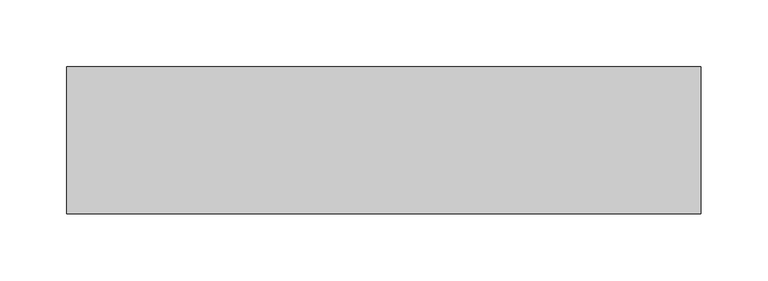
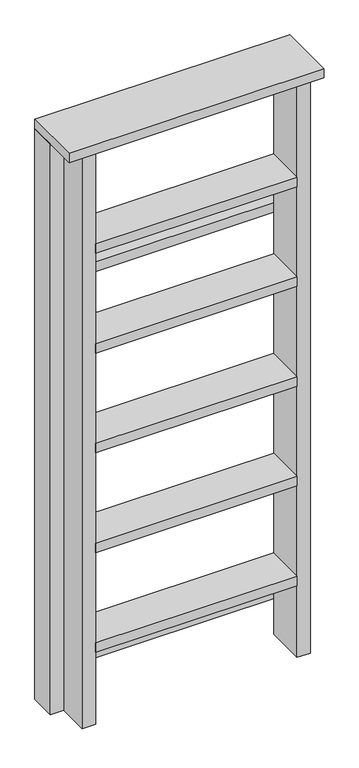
"""IFC4 building model written with IfcOpenShell, lengths in millimetres: proxy geometry, BIMHealth-Maintenance_Steps-LOD2A-v1 : BIMHealth-Maintenance_Steps-LOD2A-v1."""

import ifcopenshell
import ifcopenshell.guid

model = None  # the IFC model being written
_history = None  # IfcOwnerHistory: only IFC2X3 demands one
_inside = {}  # id of a spatial element -> (the spatial element, [elements in it])
_under = {}  # id of a project, library or spatial element -> (it, [spatial elements below it])
_declared = {}  # id of a project -> (the project, [libraries it declares])
_typed = {}  # id of a type object -> (the type object, [elements of that type])
_made_of = {}  # id of a material, layer set ... -> (it, [elements and type objects made of it])


def new_model(schema):
    """Start an empty IFC model of exactly this schema.

    Asked for "IFC4X3", IfcOpenShell would pick the latest addendum, in which some entities
    have other attributes; the version numbers below select the first issue.
    IFC2X3 requires an IfcOwnerHistory on every rooted entity: one is made here for all.
    """
    global model, _history
    if schema == "IFC4X3":
        model = ifcopenshell.file(schema_version=(4, 3, 0, 0))
    else:
        model = ifcopenshell.file(schema=schema)
    _inside.clear()
    _under.clear()
    _declared.clear()
    _typed.clear()
    _made_of.clear()
    _history = None
    if model.schema == "IFC2X3":
        org = make("IfcOrganization", Name="unknown")
        user = make(
            "IfcPersonAndOrganization",
            ThePerson=make("IfcPerson", FamilyName="unknown"),
            TheOrganization=org,
        )
        app = make(
            "IfcApplication",
            ApplicationDeveloper=org,
            Version="unknown",
            ApplicationFullName="unknown",
            ApplicationIdentifier="unknown",
        )
        _history = make(
            "IfcOwnerHistory",
            OwningUser=user,
            OwningApplication=app,
            ChangeAction="ADDED",
            CreationDate=0,
        )
    return model


def make(cls, **values):
    """One entity of the class cls with the attributes given. An attribute that is None is left unset."""
    return model.create_entity(
        cls, **{name: value for name, value in values.items() if value is not None}
    )


def rooted(cls, **values):
    """An entity with a GlobalId (a new one), such as an element, a storey or a relation."""
    return make(cls, GlobalId=ifcopenshell.guid.new(), OwnerHistory=_history, **values)


def si_unit(unit_type, name, prefix=None):
    """IfcSIUnit, for example si_unit("LENGTHUNIT", "METRE", prefix="MILLI")."""
    return make("IfcSIUnit", UnitType=unit_type, Prefix=prefix, Name=name)


def assignment(units):
    """IfcUnitAssignment: the units of a project."""
    return None if units is None else make("IfcUnitAssignment", Units=units)


def point(xyz):
    """IfcCartesianPoint."""
    return None if xyz is None else make("IfcCartesianPoint", Coordinates=xyz)


def direction(xyz):
    """IfcDirection."""
    return None if xyz is None else make("IfcDirection", DirectionRatios=xyz)


def frame(location, z_axis=None, x_axis=None):
    """IfcAxis2Placement3D, a coordinate frame: its origin and axes. An axis left out is left unset."""
    return make(
        "IfcAxis2Placement3D",
        Location=point(location),
        Axis=direction(z_axis),
        RefDirection=direction(x_axis),
    )


def origin():
    """The frame at (0, 0, 0) with its axes left unset."""
    return frame((0.0, 0.0, 0.0))


def origin_with_axes():
    """The frame at (0, 0, 0) with the z axis (0, 0, 1) and the x axis (1, 0, 0) written out."""
    return frame((0.0, 0.0, 0.0), z_axis=(0.0, 0.0, 1.0), x_axis=(1.0, 0.0, 0.0))


def place(relative_to, where):
    """IfcLocalPlacement: puts the frame where relative to a parent placement (None: the world)."""
    return make(
        "IfcLocalPlacement", PlacementRelTo=relative_to, RelativePlacement=where
    )


def context(
    kind, dimensions, precision=None, world=None, true_north=None, identifier=None
):
    """IfcGeometricRepresentationContext, for example the 3D "Model" context."""
    return make(
        "IfcGeometricRepresentationContext",
        ContextIdentifier=identifier,
        ContextType=kind,
        CoordinateSpaceDimension=dimensions,
        Precision=precision,
        WorldCoordinateSystem=world,
        TrueNorth=true_north,
    )


def project(units=None, contexts=None):
    """IfcProject with its units and contexts."""
    return rooted(
        "IfcProject",
        Name="project",
        RepresentationContexts=contexts,
        UnitsInContext=assignment(units),
    )


def spatial(cls, under=None, at=None, **own):
    """A site, building, storey or space (cls), placed at a placement, below another one or the project."""
    s = rooted(cls, ObjectPlacement=at, **own)
    if under is not None:
        _under.setdefault(under.id(), (under, []))[1].append(s)
    return s


def polyline(points):
    """IfcPolyline through the points."""
    return make("IfcPolyline", Points=[point(p) for p in points])


def outline(outer, holes=None, kind="AREA"):
    """IfcArbitraryClosedProfileDef: a profile drawn as a closed curve; with holes, ...WithVoids."""
    if holes is None:
        return make("IfcArbitraryClosedProfileDef", ProfileType=kind, OuterCurve=outer)
    return make(
        "IfcArbitraryProfileDefWithVoids",
        ProfileType=kind,
        OuterCurve=outer,
        InnerCurves=holes,
    )


def extrude(swept, where, along, depth):
    """IfcExtrudedAreaSolid: the profile swept, set in the frame where, extruded along a direction by depth."""
    return make(
        "IfcExtrudedAreaSolid",
        SweptArea=swept,
        Position=where,
        ExtrudedDirection=direction(along),
        Depth=depth,
    )


def shape(context_of_items, identifier, shape_type, items):
    """IfcShapeRepresentation: the items that make up one representation, for example the "Body"."""
    return make(
        "IfcShapeRepresentation",
        ContextOfItems=context_of_items,
        RepresentationIdentifier=identifier,
        RepresentationType=shape_type,
        Items=items,
    )


def source(mapping_origin, context_of_items, identifier, shape_type, items):
    """IfcRepresentationMap: a shape defined once, which mapped items show again and again."""
    return make(
        "IfcRepresentationMap",
        MappingOrigin=mapping_origin,
        MappedRepresentation=shape(context_of_items, identifier, shape_type, items),
    )


def transform(
    local_origin,
    x_axis=None,
    y_axis=None,
    z_axis=None,
    scale=None,
    scale2=None,
    scale3=None,
    uniform=True,
):
    """IfcCartesianTransformationOperator3D, or its non-uniform kind. x_axis, y_axis, z_axis: its Axis1, 2, 3."""
    if uniform:
        return make(
            "IfcCartesianTransformationOperator3D",
            Axis1=direction(x_axis),
            Axis2=direction(y_axis),
            LocalOrigin=point(local_origin),
            Scale=scale,
            Axis3=direction(z_axis),
        )
    return make(
        "IfcCartesianTransformationOperator3DnonUniform",
        Axis1=direction(x_axis),
        Axis2=direction(y_axis),
        LocalOrigin=point(local_origin),
        Scale=scale,
        Axis3=direction(z_axis),
        Scale2=scale2,
        Scale3=scale3,
    )


def mapped(mapping_source, mapping_target):
    """IfcMappedItem: shows the shape of a source again, moved by a transform."""
    return make(
        "IfcMappedItem", MappingSource=mapping_source, MappingTarget=mapping_target
    )


def made_of(thing, what):
    """Note that an element or type object is made of a material, layer set ...; save() writes the relation."""
    if what is not None:
        _made_of.setdefault(what.id(), (what, []))[1].append(thing)
    return thing


def element(
    cls,
    number,
    at=None,
    inside=None,
    cuts=None,
    type_object=None,
    material=None,
    context=None,
    identifier="Body",
    shape_type=None,
    held_by="IfcProductDefinitionShape",
    body=None,
    shapes=None,
    **own,
):
    """One element of the class cls, such as IfcWall. Its Tag is "e" and its number.

    at: its placement. inside: the storey or other place that contains it. cuts: it is an
    opening in that element (IfcRelVoidsElement). A single representation is given by context,
    identifier, shape_type and body (its items); several are given by shapes. held_by: the class
    of the entity that holds the representations. save() writes the other relations.
    """
    e = rooted(cls, Tag="e%d" % number, ObjectPlacement=at, **own)
    if body is not None:
        shapes = [shape(context, identifier, shape_type, body)]
    if shapes is not None:
        e.Representation = make(held_by, Representations=shapes)
    if inside is not None:
        _inside.setdefault(inside.id(), (inside, []))[1].append(e)
    if cuts is not None:
        rooted(
            "IfcRelVoidsElement", RelatingBuildingElement=cuts, RelatedOpeningElement=e
        )
    if type_object is not None:
        _typed.setdefault(type_object.id(), (type_object, []))[1].append(e)
    return made_of(e, material)


def aggregate(whole, parts):
    """IfcRelAggregates: a whole, such as a stair, and the parts it consists of."""
    return rooted("IfcRelAggregates", RelatingObject=whole, RelatedObjects=parts)


def save(model, path):
    """Write the relations noted so far, then the file.

    IfcRelAggregates (storeys below a building ...), IfcRelContainedInSpatialStructure (elements
    in a storey), IfcRelDefinesByType, IfcRelAssociatesMaterial and IfcRelDeclares: one each for
    every whole, place, type object, material and project.
    """
    for whole, parts in _under.values():
        aggregate(whole, parts)
    for where, things in _inside.values():
        rooted(
            "IfcRelContainedInSpatialStructure",
            RelatedElements=things,
            RelatingStructure=where,
        )
    for kind, things in _typed.values():
        rooted("IfcRelDefinesByType", RelatedObjects=things, RelatingType=kind)
    for what, things in _made_of.values():
        rooted("IfcRelAssociatesMaterial", RelatedObjects=things, RelatingMaterial=what)
    for by, libraries in _declared.values():
        rooted("IfcRelDeclares", RelatingContext=by, RelatedDefinitions=libraries)
    model.write(path)


def generic_models_a36bd18e(model_context):
    return source(origin(), model_context, "Body", "SweptSolid", [
        extrude(outline(polyline([(-24.7221109, -15.0), (-24.7221109, 35.0), (0.0, 35.0), (0.0, -15.0), (-24.7221109, -15.0)])), origin_with_axes(), (0.0, 0.0, 1.0), 1122.0),
        extrude(outline(polyline([(425.0, 35.0), (425.0, 5.0), (0.0, 5.0), (0.0, 35.0), (425.0, 35.0)])), frame((0.0, 0.0, 66.1436403), z_axis=(0.0, 0.0, 1.0), x_axis=(1.0, 0.0, 0.0)), (0.0, 0.0, 1.0), 18.8563597),
        extrude(outline(polyline([(425.0, 35.0), (425.0, 5.0), (0.0, 5.0), (0.0, 35.0), (425.0, 35.0)])), frame((0.0, 0.0, 825.9436403), z_axis=(0.0, 0.0, 1.0), x_axis=(1.0, 0.0, 0.0)), (0.0, 0.0, 1.0), 18.8563597),
        extrude(outline(polyline([(0.0, 925.9436403), (-5.0, 925.9436403), (-5.0, 939.8), (-70.0, 939.8), (-70.0, 925.9436403), (-75.0, 925.9436403), (-75.0, 944.8), (0.0, 944.8), (0.0, 925.9436403)])), frame((25.0, 0.0, 0.0), z_axis=(1.0, 0.0, 0.0), x_axis=(0.0, 1.0, 0.0)), (0.0, 0.0, 1.0), 375.0),
        extrude(outline(polyline([(0.0, 729.7436403), (-5.0, 729.7436403), (-5.0, 743.6), (-70.0, 743.6), (-70.0, 729.7436403), (-75.0, 729.7436403), (-75.0, 748.6), (0.0, 748.6), (0.0, 729.7436403)])), frame((25.0, 0.0, 0.0), z_axis=(1.0, 0.0, 0.0), x_axis=(0.0, 1.0, 0.0)), (0.0, 0.0, 1.0), 375.0),
        extrude(outline(polyline([(0.0, 533.5436403), (-5.0, 533.5436403), (-5.0, 547.4), (-70.0, 547.4), (-70.0, 533.5436403), (-75.0, 533.5436403), (-75.0, 552.4), (0.0, 552.4), (0.0, 533.5436403)])), frame((25.0, 0.0, 0.0), z_axis=(1.0, 0.0, 0.0), x_axis=(0.0, 1.0, 0.0)), (0.0, 0.0, 1.0), 375.0),
        extrude(outline(polyline([(0.0, 337.3436403), (-5.0, 337.3436403), (-5.0, 351.2), (-70.0, 351.2), (-70.0, 337.3436403), (-75.0, 337.3436403), (-75.0, 356.2), (0.0, 356.2), (0.0, 337.3436403)])), frame((25.0, 0.0, 0.0), z_axis=(1.0, 0.0, 0.0), x_axis=(0.0, 1.0, 0.0)), (0.0, 0.0, 1.0), 375.0),
        extrude(outline(polyline([(0.0, 141.1436403), (-5.0, 141.1436403), (-5.0, 155.0), (-70.0, 155.0), (-70.0, 141.1436403), (-75.0, 141.1436403), (-75.0, 160.0), (0.0, 160.0), (0.0, 141.1436403)])), frame((25.0, 0.0, 0.0), z_axis=(1.0, 0.0, 0.0), x_axis=(0.0, 1.0, 0.0)), (0.0, 0.0, 1.0), 375.0),
        extrude(outline(polyline([(450.2778891, 35.0), (450.2778891, -75.0), (-24.7221109, -75.0), (-24.7221109, 35.0), (450.2778891, 35.0)])), frame((0.0, 0.0, 1122.0), z_axis=(0.0, 0.0, 1.0), x_axis=(1.0, 0.0, 0.0)), (0.0, 0.0, 1.0), 18.0),
        extrude(outline(polyline([(425.0, -15.0), (425.0, 35.0), (450.2778891, 35.0), (450.2778891, -15.0), (425.0, -15.0)])), origin_with_axes(), (0.0, 0.0, 1.0), 1122.0),
        extrude(outline(polyline([(400.0, -75.0), (400.0, 0.0), (425.0, 0.0), (425.0, -75.0), (400.0, -75.0)])), origin_with_axes(), (0.0, 0.0, 1.0), 1122.0),
        extrude(outline(polyline([(25.0, 0.0), (25.0, -75.0), (0.0, -75.0), (0.0, 0.0), (25.0, 0.0)])), origin_with_axes(), (0.0, 0.0, 1.0), 1122.0),
    ])


if __name__ == "__main__":
    model = new_model("IFC4")
    model_context = context("Model", 3, world=origin())
    ifc_project = project(units=[si_unit("LENGTHUNIT", "METRE", prefix="MILLI")], contexts=[model_context])
    site = spatial("IfcSite", under=ifc_project)
    building = spatial("IfcBuilding", under=site)
    placement = place(None, origin())
    generic_models_shape = generic_models_a36bd18e(model_context)
    element("IfcBuildingElementProxy", 1, Name="BIMHealth-Maintenance_Steps-LOD2A-v1 : BIMHealth-Maintenance_Steps-LOD2A-v1", ObjectType="BIMHealth-Maintenance_Steps-LOD2A-v1 : BIMHealth-Maintenance_Steps-LOD2A-v1", at=placement, inside=building, context=model_context, shape_type="MappedRepresentation", body=[
        mapped(generic_models_shape, transform((0.0, 0.0, 0.0), x_axis=(1.0, 0.0, 0.0), y_axis=(0.0, 1.0, 0.0), z_axis=(0.0, 0.0, 1.0))),
    ])
    save(model, "model.ifc")
